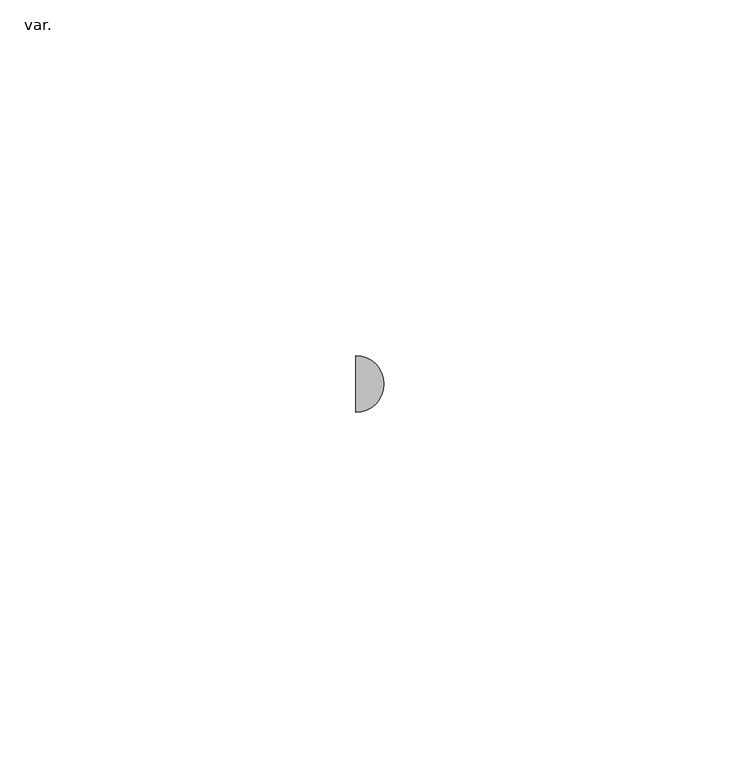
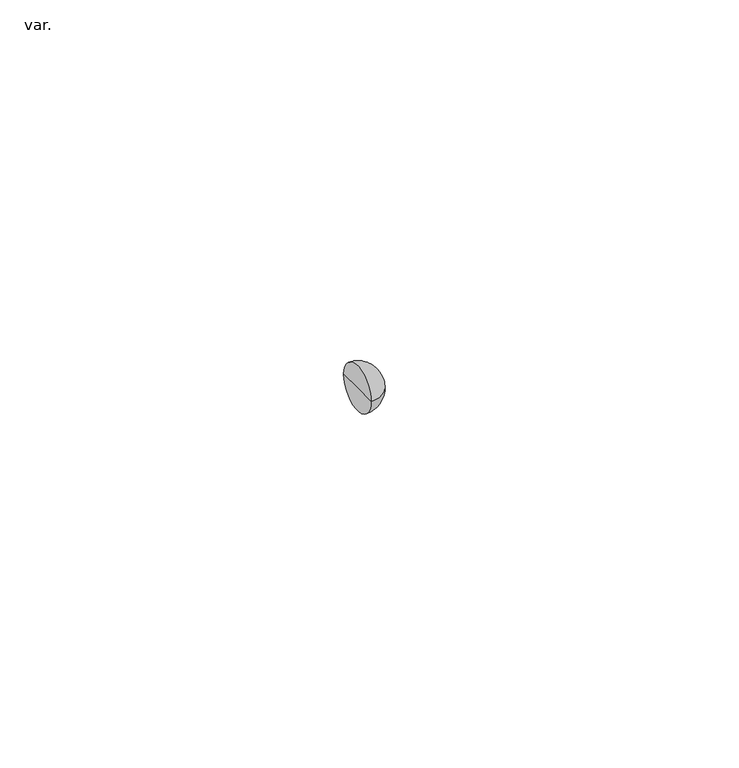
"""IFC4 building model written with IfcOpenShell, lengths in millimetres: pipe fitting geometry, NLRS_52_PIF_UN_Vacurain Flex multi T-stuk_Dyka : var.."""

from ifc_helpers import new_model, si_unit, point, frame, origin, place, context, project, spatial, circle_curve, ellipse_curve, trimmed, source, transform, mapped, element, save
from ifc_brep_helpers import plane_surface, revolved_surface, advanced_brep


def var_add32d6f(model_context):
    return source(origin(), model_context, "Body", "AdvancedBrep", [
        advanced_brep(
        [(-29.0, 0.0, 0.0), (-29.0, 4.0, 0.0), (-29.0, -4.0, 0.0), (-25.0, 0.0, 0.0)],
        [
            (0, 1),
            (1, 2, circle_curve(frame((-29.0, 0.0, 0.0), z_axis=(-1.0, 0.0, 0.0), x_axis=(0.0, 1.0, 0.0)), 4.0)),
            (2, 0),
            (2, 1, circle_curve(frame((-29.0, 0.0, 0.0), z_axis=(-1.0, 0.0, 0.0), x_axis=(0.0, 1.0, 0.0)), 4.0)),
            (1, 3, circle_curve(frame((-29.0, 0.0, 0.0), z_axis=(0.0, 0.0, -1.0), x_axis=(-1.0, 0.0, 0.0)), 4.0)),
            (3, 2, circle_curve(frame((-29.0, 0.0, 0.0), z_axis=(0.0, 0.0, -1.0), x_axis=(-1.0, 0.0, 0.0)), 4.0)),
        ],
        [
            plane_surface(frame((-29.0, 0.0, 0.0), z_axis=(-1.0, 0.0, 0.0), x_axis=(0.0, 1.0, 0.0))),
            revolved_surface(trimmed(ellipse_curve(frame((-29.0, 0.0, 0.0), z_axis=(0.0, 0.0, 1.0), x_axis=(-1.0, 0.0, 0.0)), 4.0, 4.0), [point((-25.0, 0.0, 0.0))], [point((-29.0, 4.0, 0.0))], True, "CARTESIAN"), (-27.2274263, 0.0, 0.0), (-1.0, 0.0, 0.0)),
        ],
        [
            (0, [[1, 2, 3]]),
            (0, [[-3, 4, -1]]),
            (1, [[-2, 5, 6]]),
            (1, [[-4, -6, -5]]),
        ],
    ),
    ])


if __name__ == "__main__":
    model = new_model("IFC4")
    model_context = context("Model", 3, world=origin())
    ifc_project = project(units=[si_unit("LENGTHUNIT", "METRE", prefix="MILLI")], contexts=[model_context])
    site = spatial("IfcSite", under=ifc_project)
    building = spatial("IfcBuilding", under=site)
    placement = place(None, origin())
    var_shape = var_add32d6f(model_context)
    element("IfcPipeFitting", 1, ObjectType="NLRS_52_PIF_UN_Vacurain Flex multi T-stuk_Dyka : var.", at=placement, inside=building, context=model_context, shape_type="MappedRepresentation", body=[
        mapped(var_shape, transform((0.0, 0.0, 0.0), x_axis=(1.0, 0.0, 0.0), y_axis=(0.0, 1.0, 0.0), z_axis=(0.0, 0.0, 1.0))),
    ])
    save(model, "model.ifc")
